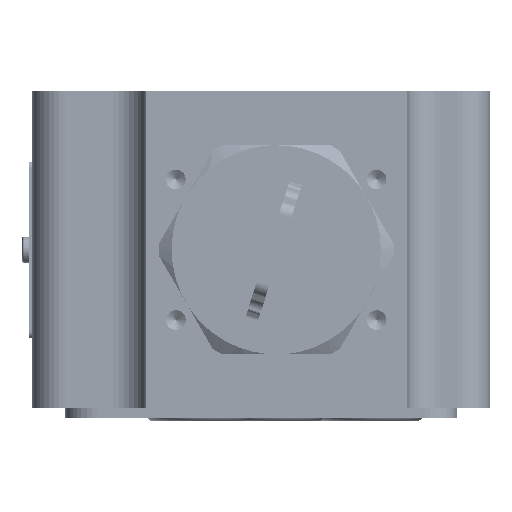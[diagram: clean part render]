
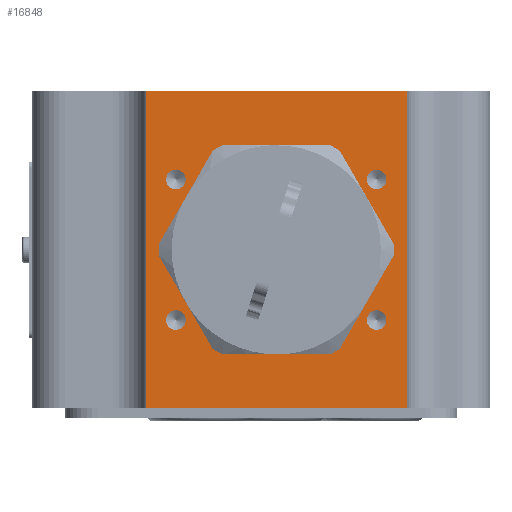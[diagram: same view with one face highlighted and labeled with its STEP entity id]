
A CAD part, left-side view. The second image highlights one B-rep face of the part: STEP entity #16848.
In plain terms, the highlighted planar face has unit normal (-1, 0, 0).
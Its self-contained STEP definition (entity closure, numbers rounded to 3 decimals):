
#1414=LINE('',#123457,#2386);
#1415=LINE('',#123460,#2387);
#1416=LINE('',#123462,#2388);
#1417=LINE('',#123464,#2389);
#2386=VECTOR('',#26055,1.);
#2387=VECTOR('',#26056,1.);
#2388=VECTOR('',#26057,1.);
#2389=VECTOR('',#26058,1.);
#3600=PLANE('',#21871);
#5690=EDGE_LOOP('',(#9781));
#5691=EDGE_LOOP('',(#9782));
#5692=EDGE_LOOP('',(#9783));
#5693=EDGE_LOOP('',(#9784));
#5694=EDGE_LOOP('',(#9785,#9786,#9787,#9788));
#5695=EDGE_LOOP('',(#9789,#9790));
#9781=ORIENTED_EDGE('',*,*,#13420,.T.);
#9782=ORIENTED_EDGE('',*,*,#13421,.T.);
#9783=ORIENTED_EDGE('',*,*,#13422,.T.);
#9784=ORIENTED_EDGE('',*,*,#13423,.T.);
#9785=ORIENTED_EDGE('',*,*,#13424,.T.);
#9786=ORIENTED_EDGE('',*,*,#13425,.F.);
#9787=ORIENTED_EDGE('',*,*,#13426,.F.);
#9788=ORIENTED_EDGE('',*,*,#13427,.T.);
#9789=ORIENTED_EDGE('',*,*,#13428,.F.);
#9790=ORIENTED_EDGE('',*,*,#13429,.F.);
#13420=EDGE_CURVE('',#19821,#19821,#15014,.T.);
#13421=EDGE_CURVE('',#19822,#19822,#15015,.T.);
#13422=EDGE_CURVE('',#19823,#19823,#15016,.T.);
#13423=EDGE_CURVE('',#19824,#19824,#15017,.T.);
#13424=EDGE_CURVE('',#19825,#19826,#1414,.T.);
#13425=EDGE_CURVE('',#19827,#19826,#1415,.T.);
#13426=EDGE_CURVE('',#19828,#19827,#1416,.T.);
#13427=EDGE_CURVE('',#19828,#19825,#1417,.T.);
#13428=EDGE_CURVE('',#19829,#19830,#15018,.T.);
#13429=EDGE_CURVE('',#19830,#19829,#15019,.T.);
#15014=CIRCLE('',#21865,1.5);
#15015=CIRCLE('',#21866,1.5);
#15016=CIRCLE('',#21867,1.5);
#15017=CIRCLE('',#21868,1.5);
#15018=CIRCLE('',#21869,13.);
#15019=CIRCLE('',#21870,13.);
#16848=ADVANCED_FACE('',(#18053,#18054,#18055,#18056,#18057,#18058),#3600,
 .F.);
#18053=FACE_BOUND('',#5690,.T.);
#18054=FACE_BOUND('',#5691,.T.);
#18055=FACE_BOUND('',#5692,.T.);
#18056=FACE_BOUND('',#5693,.T.);
#18057=FACE_BOUND('',#5694,.T.);
#18058=FACE_BOUND('',#5695,.T.);
#19821=VERTEX_POINT('',#123450);
#19822=VERTEX_POINT('',#123452);
#19823=VERTEX_POINT('',#123454);
#19824=VERTEX_POINT('',#123456);
#19825=VERTEX_POINT('',#123458);
#19826=VERTEX_POINT('',#123459);
#19827=VERTEX_POINT('',#123461);
#19828=VERTEX_POINT('',#123463);
#19829=VERTEX_POINT('',#123466);
#19830=VERTEX_POINT('',#123467);
#21865=AXIS2_PLACEMENT_3D('',#123449,#26047,#26048);
#21866=AXIS2_PLACEMENT_3D('',#123451,#26049,#26050);
#21867=AXIS2_PLACEMENT_3D('',#123453,#26051,#26052);
#21868=AXIS2_PLACEMENT_3D('',#123455,#26053,#26054);
#21869=AXIS2_PLACEMENT_3D('',#123465,#26059,#26060);
#21870=AXIS2_PLACEMENT_3D('',#123468,#26061,#26062);
#21871=AXIS2_PLACEMENT_3D('',#123469,#26063,#26064);
#26047=DIRECTION('',(1.,0.,0.));
#26048=DIRECTION('',(0.,1.,0.));
#26049=DIRECTION('',(1.,0.,0.));
#26050=DIRECTION('',(0.,1.,0.));
#26051=DIRECTION('',(1.,0.,0.));
#26052=DIRECTION('',(0.,1.,0.));
#26053=DIRECTION('',(1.,0.,0.));
#26054=DIRECTION('',(0.,1.,0.));
#26055=DIRECTION('',(0.,-1.,0.));
#26056=DIRECTION('',(0.,0.,-1.));
#26057=DIRECTION('',(0.,-1.,0.));
#26058=DIRECTION('',(0.,0.,-1.));
#26059=DIRECTION('',(-1.,0.,0.));
#26060=DIRECTION('',(0.,0.,-1.));
#26061=DIRECTION('',(-1.,0.,0.));
#26062=DIRECTION('',(0.,0.,-1.));
#26063=DIRECTION('',(1.,0.,0.));
#26064=DIRECTION('',(0.,1.,0.));
#123449=CARTESIAN_POINT('',(-144.776,47.896,5.495));
#123450=CARTESIAN_POINT('',(-144.776,49.396,5.495));
#123451=CARTESIAN_POINT('',(-144.776,47.896,27.005));
#123452=CARTESIAN_POINT('',(-144.776,49.396,27.005));
#123453=CARTESIAN_POINT('',(-144.776,78.614,27.005));
#123454=CARTESIAN_POINT('',(-144.776,80.114,27.005));
#123455=CARTESIAN_POINT('',(-144.776,78.614,5.495));
#123456=CARTESIAN_POINT('',(-144.776,80.114,5.495));
#123457=CARTESIAN_POINT('',(-144.776,83.255,-7.9));
#123458=CARTESIAN_POINT('',(-144.776,83.255,-7.9));
#123459=CARTESIAN_POINT('',(-144.776,43.255,-7.9));
#123460=CARTESIAN_POINT('',(-144.776,43.255,40.6));
#123461=CARTESIAN_POINT('',(-144.776,43.255,40.6));
#123462=CARTESIAN_POINT('',(-144.776,83.255,40.6));
#123463=CARTESIAN_POINT('',(-144.776,83.255,40.6));
#123464=CARTESIAN_POINT('',(-144.776,83.255,40.6));
#123465=CARTESIAN_POINT('',(-144.776,63.255,16.25));
#123466=CARTESIAN_POINT('',(-144.776,63.255,3.25));
#123467=CARTESIAN_POINT('',(-144.776,71.67,6.341));
#123468=CARTESIAN_POINT('',(-144.776,63.255,16.25));
#123469=CARTESIAN_POINT('',(-144.776,83.255,40.6));
